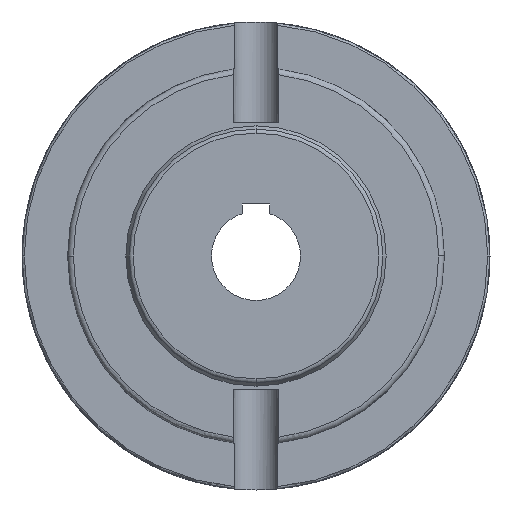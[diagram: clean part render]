
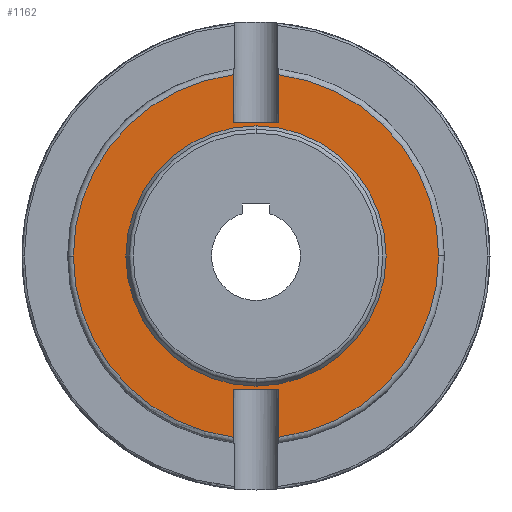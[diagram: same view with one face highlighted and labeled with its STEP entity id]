
A CAD part, left-side view. The second image highlights one B-rep face of the part: STEP entity #1162.
In plain terms, the highlighted planar face has unit normal (-1, 0, 0).
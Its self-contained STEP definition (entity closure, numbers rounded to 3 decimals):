
#1162=ADVANCED_FACE('',(#3327,#3328),#3329,.T.);
#1829=EDGE_CURVE('',#4316,#4317,#4318,.T.);
#1855=EDGE_CURVE('',#4363,#4364,#4365,.T.);
#1893=EDGE_CURVE('',#4428,#4425,#4429,.T.);
#2077=EDGE_CURVE('',#4746,#4749,#4750,.T.);
#2101=EDGE_CURVE('',#4317,#4784,#4785,.T.);
#2137=EDGE_CURVE('',#4827,#4425,#4830,.T.);
#2141=EDGE_CURVE('',#4832,#4835,#4836,.T.);
#2153=EDGE_CURVE('',#4749,#4832,#4852,.T.);
#2155=EDGE_CURVE('',#4746,#4428,#4854,.T.);
#2157=EDGE_CURVE('',#4784,#4827,#4856,.T.);
#2159=EDGE_CURVE('',#4835,#4316,#4858,.T.);
#2161=EDGE_CURVE('',#4364,#4363,#4860,.T.);
#3327=FACE_OUTER_BOUND('',#6276,.T.);
#3328=FACE_BOUND('',#6277,.T.);
#3329=PLANE('',#6278);
#4316=VERTEX_POINT('',#7501);
#4317=VERTEX_POINT('',#7502);
#4318=CIRCLE('',#7503,79.998);
#4363=VERTEX_POINT('',#7591);
#4364=VERTEX_POINT('',#7592);
#4365=CIRCLE('',#7593,57.0);
#4425=VERTEX_POINT('',#7760);
#4428=VERTEX_POINT('',#7779);
#4429=CIRCLE('',#7780,80.);
#4746=VERTEX_POINT('',#8242);
#4749=VERTEX_POINT('',#8261);
#4750=LINE('',#8262,#8263);
#4784=VERTEX_POINT('',#8396);
#4785=LINE('',#8397,#8398);
#4827=VERTEX_POINT('',#8493);
#4830=LINE('',#8497,#8498);
#4832=VERTEX_POINT('',#8501);
#4835=VERTEX_POINT('',#8505);
#4836=LINE('',#8506,#8507);
#4852=LINE('',#8547,#8548);
#4854=CIRCLE('',#8551,80.);
#4856=LINE('',#8554,#8555);
#4858=CIRCLE('',#8558,80.0);
#4860=CIRCLE('',#8561,57.0);
#6276=EDGE_LOOP('',(#11133,#11134,#11135,#11136,#11137,#11138,#11139,#11140,#11141,#11142));
#6277=EDGE_LOOP('',(#11143,#11144));
#6278=AXIS2_PLACEMENT_3D('',#11145,#11146,#11147);
#7501=CARTESIAN_POINT('',(-170.5,-80.0,0.));
#7502=CARTESIAN_POINT('',(-170.5,-9.887,-79.387));
#7503=AXIS2_PLACEMENT_3D('',#13174,#13175,#13176);
#7591=CARTESIAN_POINT('',(-170.5,0.,57.0));
#7592=CARTESIAN_POINT('',(-170.5,0.,-57.0));
#7593=AXIS2_PLACEMENT_3D('',#13207,#13208,#13209);
#7760=CARTESIAN_POINT('',(-170.5,9.887,-79.387));
#7779=CARTESIAN_POINT('',(-170.5,80.,0.));
#7780=AXIS2_PLACEMENT_3D('',#13246,#13247,#13248);
#8242=CARTESIAN_POINT('',(-170.5,9.887,79.387));
#8261=CARTESIAN_POINT('',(-170.5,9.887,58.572));
#8262=CARTESIAN_POINT('',(-170.5,9.887,58.572));
#8263=VECTOR('',#13470,1000.0);
#8396=CARTESIAN_POINT('',(-170.5,-9.887,-58.572));
#8397=CARTESIAN_POINT('',(-170.5,-9.887,-58.572));
#8398=VECTOR('',#13479,1000.0);
#8493=CARTESIAN_POINT('',(-170.5,9.887,-58.572));
#8497=CARTESIAN_POINT('',(-170.5,9.887,-58.572));
#8498=VECTOR('',#13521,1000.0);
#8501=CARTESIAN_POINT('',(-170.5,-9.887,58.572));
#8505=CARTESIAN_POINT('',(-170.5,-9.887,79.387));
#8506=CARTESIAN_POINT('',(-170.5,-9.887,58.572));
#8507=VECTOR('',#13525,1000.0);
#8547=CARTESIAN_POINT('',(-170.5,10.12,58.572));
#8548=VECTOR('',#13532,1000.0);
#8551=AXIS2_PLACEMENT_3D('',#13533,#13534,#13535);
#8554=CARTESIAN_POINT('',(-170.5,10.12,-58.572));
#8555=VECTOR('',#13536,1000.0);
#8558=AXIS2_PLACEMENT_3D('',#13537,#13538,#13539);
#8561=AXIS2_PLACEMENT_3D('',#13540,#13541,#13542);
#11133=ORIENTED_EDGE('',*,*,#2141,.F.);
#11134=ORIENTED_EDGE('',*,*,#2153,.F.);
#11135=ORIENTED_EDGE('',*,*,#2077,.F.);
#11136=ORIENTED_EDGE('',*,*,#2155,.T.);
#11137=ORIENTED_EDGE('',*,*,#1893,.T.);
#11138=ORIENTED_EDGE('',*,*,#2137,.F.);
#11139=ORIENTED_EDGE('',*,*,#2157,.F.);
#11140=ORIENTED_EDGE('',*,*,#2101,.F.);
#11141=ORIENTED_EDGE('',*,*,#1829,.F.);
#11142=ORIENTED_EDGE('',*,*,#2159,.F.);
#11143=ORIENTED_EDGE('',*,*,#1855,.T.);
#11144=ORIENTED_EDGE('',*,*,#2161,.T.);
#11145=CARTESIAN_POINT('',(-170.5,-80.96,80.339));
#11146=DIRECTION('',(-1.0,0.,0.));
#11147=DIRECTION('',(0.,1.0,0.));
#13174=CARTESIAN_POINT('',(-170.5,-0.002,-0.002));
#13175=DIRECTION('',(1.0,0.,0.));
#13176=DIRECTION('',(0.,-1.,0.));
#13207=CARTESIAN_POINT('',(-170.5,0.,0.));
#13208=DIRECTION('',(1.0,0.,0.));
#13209=DIRECTION('',(0.,0.,1.0));
#13246=CARTESIAN_POINT('',(-170.5,0.,0.));
#13247=DIRECTION('',(-1.0,0.,0.));
#13248=DIRECTION('',(0.,-1.0,0.));
#13470=DIRECTION('',(0.,0.,-1.0));
#13479=DIRECTION('',(0.,0.,1.0));
#13521=DIRECTION('',(0.,0.,-1.0));
#13525=DIRECTION('',(0.,0.,1.0));
#13532=DIRECTION('',(0.,-1.0,0.));
#13533=CARTESIAN_POINT('',(-170.5,0.,0.));
#13534=DIRECTION('',(-1.0,0.,0.));
#13535=DIRECTION('',(0.,-1.0,0.));
#13536=DIRECTION('',(0.,1.0,0.));
#13537=CARTESIAN_POINT('',(-170.5,0.,0.));
#13538=DIRECTION('',(1.0,0.,0.));
#13539=DIRECTION('',(0.,-1.0,0.));
#13540=CARTESIAN_POINT('',(-170.5,0.,0.));
#13541=DIRECTION('',(1.0,0.,0.));
#13542=DIRECTION('',(0.,0.,1.0));
